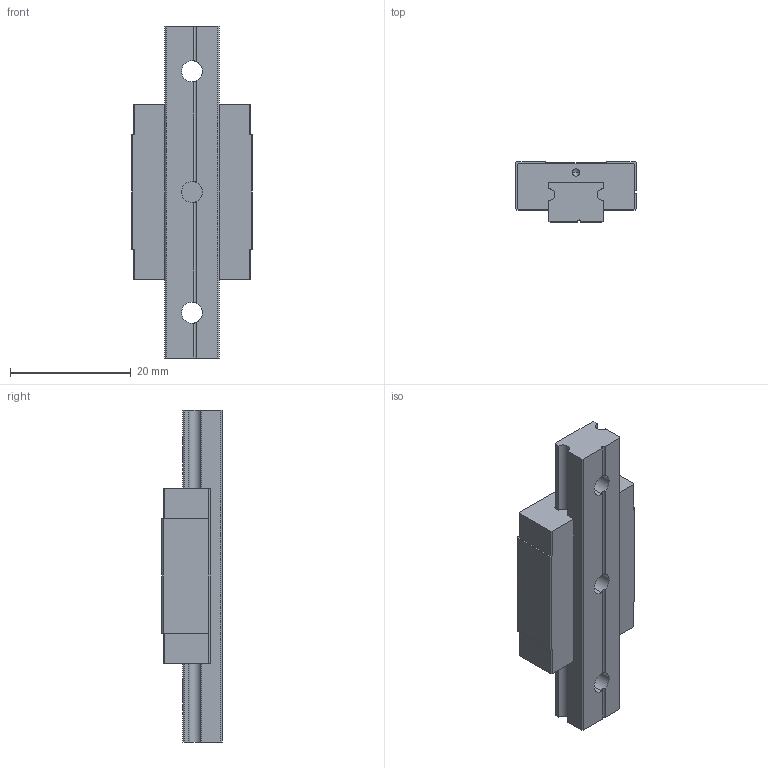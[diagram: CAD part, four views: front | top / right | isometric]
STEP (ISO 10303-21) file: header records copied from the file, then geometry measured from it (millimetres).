
FILE_DESCRIPTION (( 'STEP AP214' ), '1' );
FILE_NAME ('2.1053 Lineaarikelkka MGN9CE.STEP', '2025-09-19T06:50:52', ( '' ), ( '' ), 'SwSTEP 2.0', 'SolidWorks 2025', '' );
FILE_SCHEMA (( 'AUTOMOTIVE_DESIGN' ));
Length unit declared in the file: millimetre
Products named in the file (1): 2.1053 Lineaarikelkka MGN9CE
Bounding box: 20 x 10 x 55 mm (x, y, z)
Volume: 5979.9 mm3; surface area: 4471.3 mm2
Topology: 2 solids, 2 shells, 103 faces, 281 edges, 176 vertices
Faces by surface type: plane 55, cylinder 36, cone 12
Entity records: 4518 total; most frequent: CARTESIAN_POINT 747, DIRECTION 543, ORIENTED_EDGE 538, EDGE_CURVE 269, VECTOR 191, LINE 191, AXIS2_PLACEMENT_3D 176, VERTEX_POINT 176
